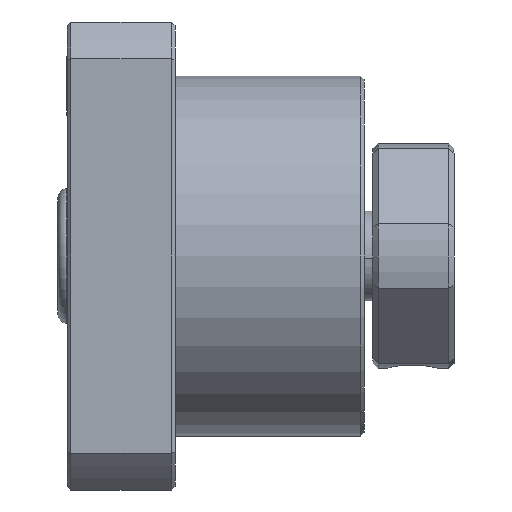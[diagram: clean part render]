
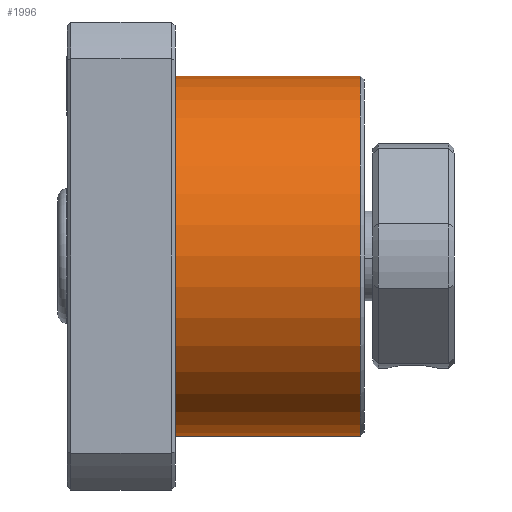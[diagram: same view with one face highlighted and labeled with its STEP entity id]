
A CAD part, front view. The second image highlights one B-rep face of the part: STEP entity #1996.
In plain terms, the highlighted cylindrical face has radius 10 mm (diameter 20 mm), a partial arc.
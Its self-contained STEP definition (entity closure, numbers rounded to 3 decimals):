
#344 = CARTESIAN_POINT ( 'NONE',  ( -94.469, 0., -10. ) ) ;
#458 = AXIS2_PLACEMENT_3D ( 'NONE', #2293, #5441, #2749 ) ;
#502 = DIRECTION ( 'NONE',  ( 0., 0., 1. ) ) ;
#1061 = CIRCLE ( 'NONE', #458, 10. ) ;
#1434 = CYLINDRICAL_SURFACE ( 'NONE', #4147, 10. ) ;
#1472 = LINE ( 'NONE', #344, #4755 ) ;
#1509 = VERTEX_POINT ( 'NONE', #4124 ) ;
#1598 = VERTEX_POINT ( 'NONE', #1641 ) ;
#1641 = CARTESIAN_POINT ( 'NONE',  ( 6., 0., -10. ) ) ;
#1811 = ORIENTED_EDGE ( 'NONE', *, *, #4445, .F. ) ;
#1828 = DIRECTION ( 'NONE',  ( -1., 0., 0. ) ) ;
#1924 = AXIS2_PLACEMENT_3D ( 'NONE', #2228, #5368, #2670 ) ;
#1996 = ADVANCED_FACE ( 'NONE', ( #3806 ), #1434, .T. ) ;
#2228 = CARTESIAN_POINT ( 'NONE',  ( 6., 0., 0. ) ) ;
#2293 = CARTESIAN_POINT ( 'NONE',  ( 16.3, 0., 0. ) ) ;
#2557 = ORIENTED_EDGE ( 'NONE', *, *, #5156, .F. ) ;
#2610 = VERTEX_POINT ( 'NONE', #4706 ) ;
#2670 = DIRECTION ( 'NONE',  ( 0., 0., 1. ) ) ;
#2678 = EDGE_LOOP ( 'NONE', ( #2557, #3050, #3040, #1811 ) ) ;
#2749 = DIRECTION ( 'NONE',  ( 0., 0., 1. ) ) ;
#3040 = ORIENTED_EDGE ( 'NONE', *, *, #3270, .T. ) ;
#3050 = ORIENTED_EDGE ( 'NONE', *, *, #3516, .T. ) ;
#3270 = EDGE_CURVE ( 'NONE', #1509, #2610, #4555, .T. ) ;
#3516 = EDGE_CURVE ( 'NONE', #3970, #1509, #1061, .T. ) ;
#3806 = FACE_OUTER_BOUND ( 'NONE', #2678, .T. ) ;
#3970 = VERTEX_POINT ( 'NONE', #5620 ) ;
#4052 = CARTESIAN_POINT ( 'NONE',  ( -94.469, 0., 10. ) ) ;
#4113 = CIRCLE ( 'NONE', #1924, 10. ) ;
#4124 = CARTESIAN_POINT ( 'NONE',  ( 16.3, 0., 10. ) ) ;
#4147 = AXIS2_PLACEMENT_3D ( 'NONE', #4917, #4524, #502 ) ;
#4411 = VECTOR ( 'NONE', #1828, 1000. ) ;
#4445 = EDGE_CURVE ( 'NONE', #1598, #2610, #4113, .T. ) ;
#4524 = DIRECTION ( 'NONE',  ( -1., 0., 0. ) ) ;
#4555 = LINE ( 'NONE', #4052, #4411 ) ;
#4706 = CARTESIAN_POINT ( 'NONE',  ( 6., 0., 10. ) ) ;
#4755 = VECTOR ( 'NONE', #4802, 1000. ) ;
#4802 = DIRECTION ( 'NONE',  ( -1., 0., 0. ) ) ;
#4917 = CARTESIAN_POINT ( 'NONE',  ( -94.469, 0., 0. ) ) ;
#5156 = EDGE_CURVE ( 'NONE', #3970, #1598, #1472, .T. ) ;
#5368 = DIRECTION ( 'NONE',  ( -1., 0., 0. ) ) ;
#5441 = DIRECTION ( 'NONE',  ( -1., 0., 0. ) ) ;
#5620 = CARTESIAN_POINT ( 'NONE',  ( 16.3, 0., -10. ) ) ;
